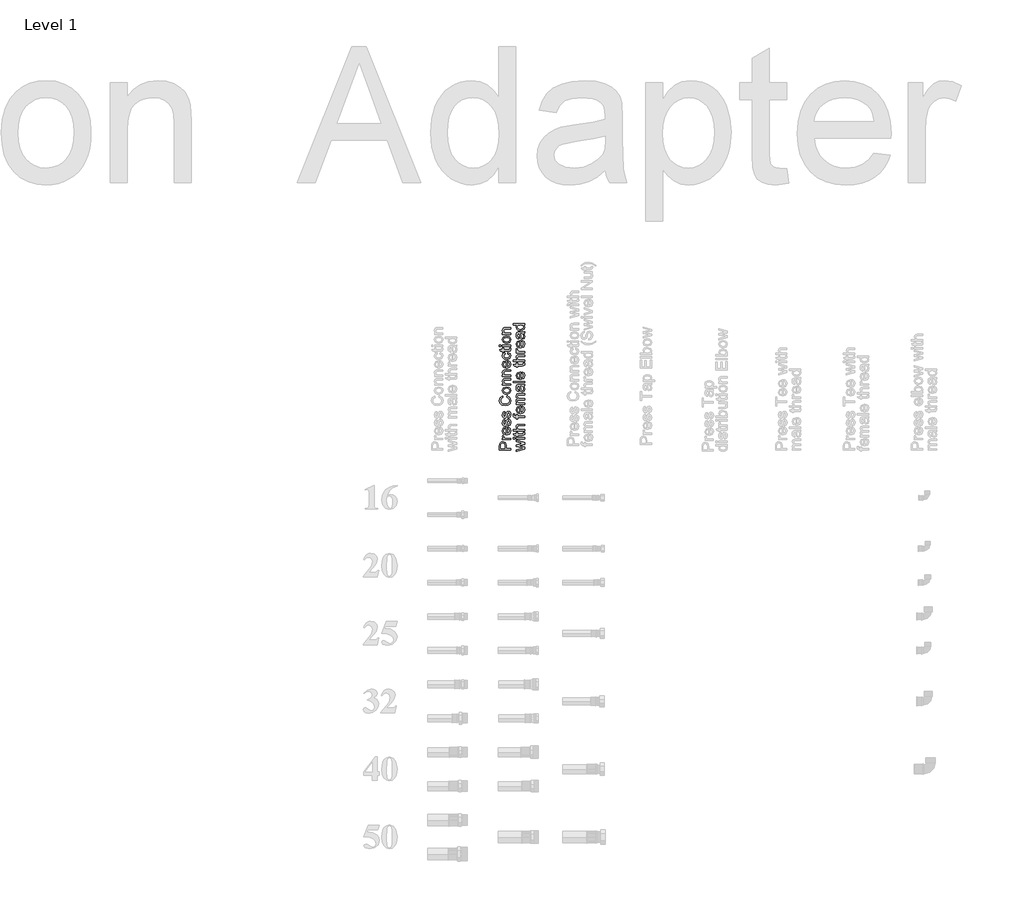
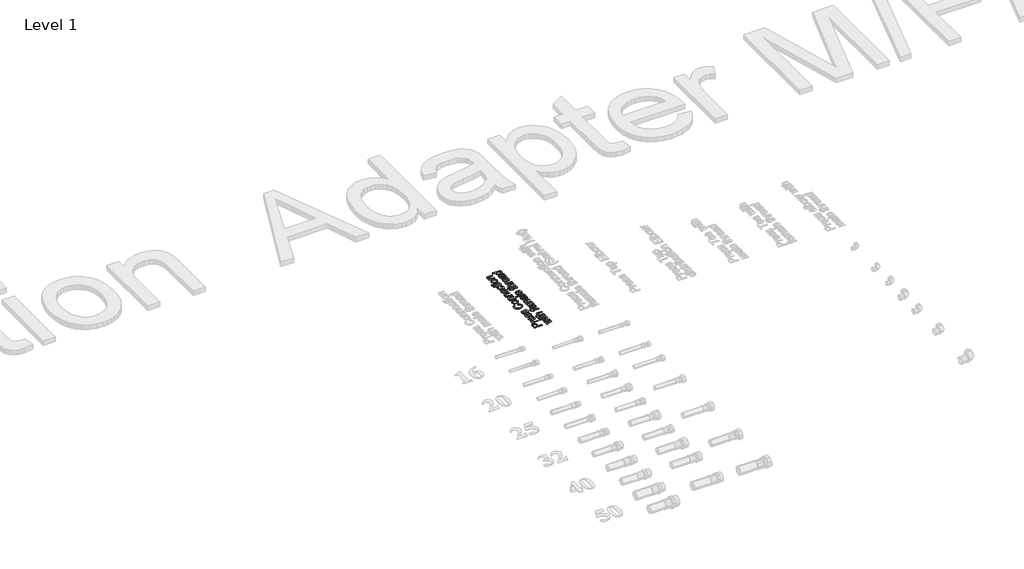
# One storey, part 41 of 57: 1 proxy.
"""IFC4 building model written with IfcOpenShell, lengths in millimetres."""

from ifc_helpers import new_model, si_unit, frame, origin, place, context, project, spatial, polyline, outline, extrude, element, save

model = new_model("IFC4")

# Units and contexts
model_context = context("Model", 3, world=origin())
ifc_project = project(units=[si_unit("LENGTHUNIT", "METRE", prefix="MILLI")], contexts=[model_context])

# Site, building, storey
site = spatial("IfcSite", under=ifc_project)
building = spatial("IfcBuilding", under=site)
storey = spatial("IfcBuildingStorey", under=building, Name="Level 1", Elevation=27.3876384)

# Proxy
placement = place(None, origin())
element("IfcBuildingElementProxy", 1, Name="50mm Arial", ObjectType="50mm Arial", at=placement, inside=storey, context=model_context, shape_type="SweptSolid", body=[
    extrude(outline(polyline([(29719.1417262, 30406.8112945), (29668.9135711, 30406.8112945), (29668.9135711, 30425.4261235), (29669.3918177, 30432.9309162), (29671.7401311, 30439.0316259), (29676.5961734, 30442.9863574), (29683.4449099, 30444.4824108), (29694.2974288, 30440.4418402), (29698.7365382, 30425.8553191), (29698.7365382, 30413.0898139), (29719.1417262, 30413.0898139), (29719.1417262, 30406.8112945)]), holes=[polyline([(29692.4580188, 30413.0898139), (29692.4580188, 30426.2232011), (29690.152625, 30435.4693019), (29683.6656391, 30438.2038914), (29678.4662402, 30436.591342), (29675.6212861, 30432.3545677), (29675.1920905, 30426.0760483), (29675.1920905, 30413.0898139), (29692.4580188, 30413.0898139)])]), frame((0.0, 0.0, 27.3876384), z_axis=(0.0, 0.0, 1.0), x_axis=(1.0, 0.0, 0.0)), (0.0, 0.0, 1.0), 2.0),
    extrude(outline(polyline([(29719.1417262, 30452.33056), (29682.2554248, 30452.33056), (29682.2554248, 30457.8242645), (29687.7123411, 30457.8242645), (29682.6846205, 30461.7238137), (29681.4706099, 30465.6478883), (29683.4081217, 30471.9509331), (29689.0367162, 30469.8540057), (29687.7491293, 30465.4394218), (29688.9876653, 30461.8893606), (29692.4212306, 30459.6268863), (29699.754345, 30458.6090794), (29719.1417262, 30458.6090794), (29719.1417262, 30452.33056)])), frame((0.0, 0.0, 27.3876384), z_axis=(0.0, 0.0, 1.0), x_axis=(1.0, 0.0, 0.0)), (0.0, 0.0, 1.0), 2.0),
    extrude(outline(polyline([(29708.1543173, 30501.7003238), (29708.9391322, 30507.8562159), (29717.0447988, 30502.0988626), (29719.9265411, 30491.3751025), (29714.9540028, 30478.3398171), (29701.0051438, 30473.520563), (29686.5964323, 30478.388868), (29681.4706099, 30491.0194832), (29686.5841696, 30503.2883477), (29700.9683556, 30508.0524196), (29702.6606128, 30508.0156314), (29702.6606128, 30479.7990824), (29710.8153304, 30483.4104573), (29713.6480217, 30491.4977298), (29712.3359093, 30497.6536219), (29708.1543173, 30501.7003238)]), holes=[polyline([(29696.3820934, 30479.7990824), (29696.3820934, 30501.7739002), (29690.6921852, 30499.2600399), (29687.7491293, 30490.9949577), (29690.0974427, 30483.2633045), (29696.3820934, 30479.7990824)])]), frame((0.0, 0.0, 27.3876384), z_axis=(0.0, 0.0, 1.0), x_axis=(1.0, 0.0, 0.0)), (0.0, 0.0, 1.0), 2.0),
    extrude(outline(polyline([(29708.1543173, 30511.9764942), (29707.3695023, 30518.2550136), (29712.0293409, 30521.1612813), (29713.6480217, 30527.8199455), (29712.164231, 30534.2210922), (29708.6816148, 30536.3057568), (29705.8611862, 30534.2088294), (29704.0708271, 30527.7463691), (29700.9990124, 30518.2918018), (29697.412163, 30514.1653921), (29692.3476542, 30512.7613091), (29687.6694215, 30513.8894806), (29684.0948348, 30516.9674266), (29682.2370307, 30520.9589462), (29681.4706099, 30526.3606802), (29682.7030146, 30534.000363), (29686.038478, 30538.8564053), (29691.6732039, 30541.0146464), (29692.4580188, 30534.736127), (29688.9937967, 30532.3755508), (29687.7491293, 30526.8511895), (29688.9386144, 30520.8424503), (29691.7099921, 30519.0398285), (29693.5371393, 30519.7878552), (29694.9228282, 30522.1300373), (29696.2594661, 30527.5379026), (29699.2147848, 30536.7533466), (29702.5625109, 30541.0330404), (29708.0194272, 30542.5842762), (29714.0281664, 30540.7632603), (29718.3875681, 30535.5086792), (29719.9265411, 30527.7341063), (29716.9589597, 30516.7834856), (29708.1543173, 30511.9764942)])), frame((0.0, 0.0, 27.3876384), z_axis=(0.0, 0.0, 1.0), x_axis=(1.0, 0.0, 0.0)), (0.0, 0.0, 1.0), 2.0),
    extrude(outline(polyline([(29708.1543173, 30547.2931657), (29707.3695023, 30553.5716851), (29712.0293409, 30556.4779529), (29713.6480217, 30563.136617), (29712.164231, 30569.5377637), (29708.6816148, 30571.6224283), (29705.8611862, 30569.525501), (29704.0708271, 30563.0630406), (29700.9990124, 30553.6084733), (29697.412163, 30549.4820636), (29692.3476542, 30548.0779807), (29687.6694215, 30549.2061521), (29684.0948348, 30552.2840981), (29682.2370307, 30556.2756178), (29681.4706099, 30561.6773517), (29682.7030146, 30569.3170345), (29686.038478, 30574.1730768), (29691.6732039, 30576.3313179), (29692.4580188, 30570.0527985), (29688.9937967, 30567.6922224), (29687.7491293, 30562.1678611), (29688.9386144, 30556.1591218), (29691.7099921, 30554.3565), (29693.5371393, 30555.1045268), (29694.9228282, 30557.4467088), (29696.2594661, 30562.8545741), (29699.2147848, 30572.0700181), (29702.5625109, 30576.349712), (29708.0194272, 30577.9009477), (29714.0281664, 30576.0799319), (29718.3875681, 30570.8253507), (29719.9265411, 30563.0507779), (29716.9589597, 30552.1001571), (29708.1543173, 30547.2931657)])), frame((0.0, 0.0, 27.3876384), z_axis=(0.0, 0.0, 1.0), x_axis=(1.0, 0.0, 0.0)), (0.0, 0.0, 1.0), 2.0),
    extrude(outline(polyline([(29701.2871867, 30640.6861416), (29702.9058675, 30646.964661), (29715.5671395, 30639.5211819), (29719.9265411, 30626.375532), (29716.6278659, 30613.3095898), (29707.0751967, 30605.6453815), (29693.6475039, 30603.0150253), (29679.9990819, 30605.9887381), (29671.1515199, 30614.4438926), (29668.1287562, 30626.510422), (29672.0405681, 30639.0858549), (29683.0525025, 30646.179846), (29684.5485559, 30639.9013267), (29676.8291654, 30634.7509787), (29674.4072756, 30626.2651674), (29677.0928141, 30616.4427181), (29684.3033012, 30610.8938313), (29693.6352412, 30609.2935447), (29704.4509718, 30611.1881369), (29711.361022, 30617.0865116), (29713.6480217, 30625.7501326), (29710.5332875, 30635.357984), (29701.2871867, 30640.6861416)])), frame((0.0, 0.0, 27.3876384), z_axis=(0.0, 0.0, 1.0), x_axis=(1.0, 0.0, 0.0)), (0.0, 0.0, 1.0), 2.0),
    extrude(outline(polyline([(29700.6985755, 30653.2431803), (29691.8050283, 30654.601278), (29685.5541, 30658.6755711), (29681.4706099, 30669.7365565), (29686.4431482, 30681.6007508), (29700.1835407, 30686.2054071), (29711.3548906, 30684.1697934), (29717.6763296, 30678.2407619), (29719.9265411, 30669.7365565), (29714.9723969, 30657.7987857), (29700.6985755, 30653.2431803)]), holes=[polyline([(29700.6863128, 30659.5216997), (29710.4167915, 30662.4279675), (29713.6480217, 30669.7365565), (29710.3983974, 30677.02062), (29700.490109, 30679.9268877), (29690.9803594, 30677.0022259), (29687.7491293, 30669.7365565), (29690.9680967, 30662.4279675), (29700.6863128, 30659.5216997)])]), frame((0.0, 0.0, 27.3876384), z_axis=(0.0, 0.0, 1.0), x_axis=(1.0, 0.0, 0.0)), (0.0, 0.0, 1.0), 2.0),
    extrude(outline(polyline([(29719.1417262, 30693.2687414), (29682.2554248, 30693.2687414), (29682.2554248, 30699.5472608), (29687.4057727, 30699.5472608), (29682.9544006, 30704.3481208), (29681.4706099, 30710.9025517), (29682.6662264, 30716.8315832), (29685.805486, 30720.8782852), (29690.4224051, 30722.7606147), (29696.492458, 30723.0917085), (29719.1417262, 30723.0917085), (29719.1417262, 30716.8131891), (29697.3385866, 30716.8131891), (29691.7835685, 30716.0896879), (29688.8466439, 30713.532908), (29687.7491293, 30709.2225573), (29690.2139386, 30702.410609), (29699.570404, 30699.5472608), (29719.1417262, 30699.5472608), (29719.1417262, 30693.2687414)])), frame((0.0, 0.0, 27.3876384), z_axis=(0.0, 0.0, 1.0), x_axis=(1.0, 0.0, 0.0)), (0.0, 0.0, 1.0), 2.0),
    extrude(outline(polyline([(29719.1417262, 30731.7246726), (29682.2554248, 30731.7246726), (29682.2554248, 30738.003192), (29687.4057727, 30738.003192), (29682.9544006, 30742.8040521), (29681.4706099, 30749.358483), (29682.6662264, 30755.2875144), (29685.805486, 30759.3342164), (29690.4224051, 30761.2165459), (29696.492458, 30761.5476397), (29719.1417262, 30761.5476397), (29719.1417262, 30755.2691203), (29697.3385866, 30755.2691203), (29691.7835685, 30754.5456191), (29688.8466439, 30751.9888392), (29687.7491293, 30747.6784885), (29690.2139386, 30740.8665402), (29699.570404, 30738.003192), (29719.1417262, 30738.003192), (29719.1417262, 30731.7246726)])), frame((0.0, 0.0, 27.3876384), z_axis=(0.0, 0.0, 1.0), x_axis=(1.0, 0.0, 0.0)), (0.0, 0.0, 1.0), 2.0),
    extrude(outline(polyline([(29708.1543173, 30796.0059199), (29708.9391322, 30802.161812), (29717.0447988, 30796.4044588), (29719.9265411, 30785.6806986), (29714.9540028, 30772.6454132), (29701.0051438, 30767.8261591), (29686.5964323, 30772.6944642), (29681.4706099, 30785.3250793), (29686.5841696, 30797.5939439), (29700.9683556, 30802.3580157), (29702.6606128, 30802.3212275), (29702.6606128, 30774.1046785), (29710.8153304, 30777.7160534), (29713.6480217, 30785.8033259), (29712.3359093, 30791.959218), (29708.1543173, 30796.0059199)]), holes=[polyline([(29696.3820934, 30774.1046785), (29696.3820934, 30796.0794963), (29690.6921852, 30793.565636), (29687.7491293, 30785.3005539), (29690.0974427, 30777.5689006), (29696.3820934, 30774.1046785)])]), frame((0.0, 0.0, 27.3876384), z_axis=(0.0, 0.0, 1.0), x_axis=(1.0, 0.0, 0.0)), (0.0, 0.0, 1.0), 2.0),
    extrude(outline(polyline([(29705.7998725, 30832.1809828), (29706.5846874, 30838.4595022), (29716.3887426, 30833.4195188), (29719.9265411, 30823.4621795), (29714.990791, 30811.561197), (29700.8334656, 30807.0669053), (29690.404011, 30808.986023), (29683.7024273, 30814.8353467), (29681.4706099, 30823.3763404), (29684.5362932, 30832.9228782), (29693.2428337, 30837.6746873), (29694.0276486, 30831.3961679), (29689.3248905, 30828.4837687), (29687.7491293, 30823.4253913), (29690.8516007, 30816.1474592), (29700.6617873, 30813.3454246), (29710.5639443, 30816.0861455), (29713.6480217, 30823.253713), (29711.7227726, 30829.1704818), (29705.7998725, 30832.1809828)])), frame((0.0, 0.0, 27.3876384), z_axis=(0.0, 0.0, 1.0), x_axis=(1.0, 0.0, 0.0)), (0.0, 0.0, 1.0), 2.0),
    extrude(outline(polyline([(29713.9055391, 30857.2950603), (29719.3256672, 30858.0798753), (29719.9265411, 30853.3832485), (29718.8842088, 30848.1225359), (29716.1496193, 30845.498311), (29709.0249713, 30844.7380216), (29688.5339442, 30844.7380216), (29688.5339442, 30840.029132), (29682.2554248, 30840.029132), (29682.2554248, 30844.7380216), (29673.2913668, 30844.7380216), (29669.6002842, 30851.016541), (29682.2554248, 30851.016541), (29682.2554248, 30857.2950603), (29688.5339442, 30857.2950603), (29688.5339442, 30851.016541), (29708.8410303, 30851.016541), (29712.0783919, 30851.3476347), (29713.6480217, 30854.5604708), (29713.9055391, 30857.2950603)])), frame((0.0, 0.0, 27.3876384), z_axis=(0.0, 0.0, 1.0), x_axis=(1.0, 0.0, 0.0)), (0.0, 0.0, 1.0), 2.0),
    extrude(outline(polyline([(29675.1920905, 30863.5735797), (29668.9135711, 30863.5735797), (29668.9135711, 30869.8520991), (29675.1920905, 30869.8520991), (29675.1920905, 30863.5735797)])), frame((0.0, 0.0, 27.3876384), z_axis=(0.0, 0.0, 1.0), x_axis=(1.0, 0.0, 0.0)), (0.0, 0.0, 1.0), 2.0),
    extrude(outline(polyline([(29719.1417262, 30863.5735797), (29682.2554248, 30863.5735797), (29682.2554248, 30869.8520991), (29719.1417262, 30869.8520991), (29719.1417262, 30863.5735797)])), frame((0.0, 0.0, 27.3876384), z_axis=(0.0, 0.0, 1.0), x_axis=(1.0, 0.0, 0.0)), (0.0, 0.0, 1.0), 2.0),
    extrude(outline(polyline([(29700.6985755, 30877.7002483), (29691.8050283, 30879.058346), (29685.5541, 30883.1326391), (29681.4706099, 30894.1936245), (29686.4431482, 30906.0578188), (29700.1835407, 30910.6624751), (29711.3548906, 30908.6268614), (29717.6763296, 30902.6978299), (29719.9265411, 30894.1936245), (29714.9723969, 30882.2558537), (29700.6985755, 30877.7002483)]), holes=[polyline([(29700.6863128, 30883.9787677), (29710.4167915, 30886.8850355), (29713.6480217, 30894.1936245), (29710.3983974, 30901.477688), (29700.490109, 30904.3839557), (29690.9803594, 30901.4592939), (29687.7491293, 30894.1936245), (29690.9680967, 30886.8850355), (29700.6863128, 30883.9787677)])]), frame((0.0, 0.0, 27.3876384), z_axis=(0.0, 0.0, 1.0), x_axis=(1.0, 0.0, 0.0)), (0.0, 0.0, 1.0), 2.0),
    extrude(outline(polyline([(29719.1417262, 30917.7258094), (29682.2554248, 30917.7258094), (29682.2554248, 30924.0043288), (29687.4057727, 30924.0043288), (29682.9544006, 30928.8051888), (29681.4706099, 30935.3596197), (29682.6662264, 30941.2886512), (29685.805486, 30945.3353531), (29690.4224051, 30947.2176827), (29696.492458, 30947.5487765), (29719.1417262, 30947.5487765), (29719.1417262, 30941.2702571), (29697.3385866, 30941.2702571), (29691.7835685, 30940.5467558), (29688.8466439, 30937.989976), (29687.7491293, 30933.6796253), (29690.2139386, 30926.867677), (29699.570404, 30924.0043288), (29719.1417262, 30924.0043288), (29719.1417262, 30917.7258094)])), frame((0.0, 0.0, 27.3876384), z_axis=(0.0, 0.0, 1.0), x_axis=(1.0, 0.0, 0.0)), (0.0, 0.0, 1.0), 2.0),
    extrude(outline(polyline([(29780.1291351, 30412.1455834), (29743.2428337, 30400.9251826), (29743.2428337, 30407.4489566), (29764.7639304, 30413.8133152), (29772.4526641, 30415.7140388), (29765.0459733, 30417.2714059), (29743.2428337, 30422.3359147), (29743.2428337, 30429.8161819), (29764.9846596, 30434.8561653), (29771.6923747, 30436.2418541), (29764.6167776, 30438.2284169), (29743.2428337, 30444.6050381), (29743.2428337, 30451.1533377), (29780.1291351, 30439.8470977), (29780.1291351, 30432.2564658), (29758.4976738, 30427.4372117), (29751.7531705, 30426.0392601), (29780.1291351, 30419.8220544), (29780.1291351, 30412.1455834)])), frame((0.0, 0.0, 27.3876384), z_axis=(0.0, 0.0, 1.0), x_axis=(1.0, 0.0, 0.0)), (0.0, 0.0, 1.0), 2.0),
    extrude(outline(polyline([(29736.1794994, 30455.4698197), (29729.90098, 30455.4698197), (29729.90098, 30461.7483391), (29736.1794994, 30461.7483391), (29736.1794994, 30455.4698197)])), frame((0.0, 0.0, 27.3876384), z_axis=(0.0, 0.0, 1.0), x_axis=(1.0, 0.0, 0.0)), (0.0, 0.0, 1.0), 2.0),
    extrude(outline(polyline([(29780.1291351, 30455.4698197), (29743.2428337, 30455.4698197), (29743.2428337, 30461.7483391), (29780.1291351, 30461.7483391), (29780.1291351, 30455.4698197)])), frame((0.0, 0.0, 27.3876384), z_axis=(0.0, 0.0, 1.0), x_axis=(1.0, 0.0, 0.0)), (0.0, 0.0, 1.0), 2.0),
    extrude(outline(polyline([(29774.892948, 30484.5079719), (29780.3130761, 30485.2927868), (29780.91395, 30480.59616), (29779.8716177, 30475.3354475), (29777.1370282, 30472.7112226), (29770.0123802, 30471.9509331), (29749.5213531, 30471.9509331), (29749.5213531, 30467.2420436), (29743.2428337, 30467.2420436), (29743.2428337, 30471.9509331), (29734.2787758, 30471.9509331), (29730.5876931, 30478.2294525), (29743.2428337, 30478.2294525), (29743.2428337, 30484.5079719), (29749.5213531, 30484.5079719), (29749.5213531, 30478.2294525), (29769.8284392, 30478.2294525), (29773.0658008, 30478.5605463), (29774.6354306, 30481.7733824), (29774.892948, 30484.5079719)])), frame((0.0, 0.0, 27.3876384), z_axis=(0.0, 0.0, 1.0), x_axis=(1.0, 0.0, 0.0)), (0.0, 0.0, 1.0), 2.0),
    extrude(outline(polyline([(29780.1291351, 30490.7864913), (29729.90098, 30490.7864913), (29729.90098, 30497.0650107), (29748.3686562, 30497.0650107), (29742.4580188, 30507.9911059), (29744.0705682, 30515.0421775), (29748.5280717, 30519.3218714), (29756.7808911, 30520.6094584), (29780.1291351, 30520.6094584), (29780.1291351, 30514.330939), (29757.430816, 30514.330939), (29750.8089401, 30512.3321135), (29748.7365382, 30506.6667307), (29750.1344898, 30501.5225142), (29753.9236743, 30498.0889489), (29760.5332875, 30497.0650107), (29780.1291351, 30497.0650107), (29780.1291351, 30490.7864913)])), frame((0.0, 0.0, 27.3876384), z_axis=(0.0, 0.0, 1.0), x_axis=(1.0, 0.0, 0.0)), (0.0, 0.0, 1.0), 2.0),
    extrude(outline(polyline([(29780.1291351, 30550.4324254), (29749.5213531, 30550.4324254), (29749.5213531, 30544.938721), (29743.2428337, 30544.938721), (29743.2428337, 30550.4324254), (29739.5272256, 30550.4324254), (29734.2910385, 30551.094613), (29730.5509049, 30554.3074491), (29729.1161651, 30560.6350194), (29729.8028782, 30566.3617158), (29735.6889901, 30565.4420108), (29735.3946845, 30561.8245045), (29736.4370168, 30557.8697731), (29740.3243032, 30556.7109448), (29743.2428337, 30556.7109448), (29743.2428337, 30563.7742791), (29749.5213531, 30563.7742791), (29749.5213531, 30556.7109448), (29780.1291351, 30556.7109448), (29780.1291351, 30550.4324254)])), frame((0.0, 0.0, 27.3876384), z_axis=(0.0, 0.0, 1.0), x_axis=(1.0, 0.0, 0.0)), (0.0, 0.0, 1.0), 2.0),
    extrude(outline(polyline([(29769.1417262, 30595.0932996), (29769.9265411, 30601.2491917), (29778.0322077, 30595.4918385), (29780.91395, 30584.7680783), (29775.9414117, 30571.7327929), (29761.9925527, 30566.9135388), (29747.5838413, 30571.7818439), (29742.4580188, 30584.412459), (29747.5715785, 30596.6813236), (29761.9557645, 30601.4453954), (29763.6480217, 30601.4086072), (29763.6480217, 30573.1920582), (29771.8027393, 30576.8034331), (29774.6354306, 30584.8907056), (29773.3233182, 30591.0465977), (29769.1417262, 30595.0932996)]), holes=[polyline([(29757.3695023, 30573.1920582), (29757.3695023, 30595.166876), (29751.6795941, 30592.6530157), (29748.7365382, 30584.3879336), (29751.0848516, 30576.6562803), (29757.3695023, 30573.1920582)])]), frame((0.0, 0.0, 27.3876384), z_axis=(0.0, 0.0, 1.0), x_axis=(1.0, 0.0, 0.0)), (0.0, 0.0, 1.0), 2.0),
    extrude(outline(polyline([(29780.1291351, 30607.7239148), (29743.2428337, 30607.7239148), (29743.2428337, 30614.0024342), (29749.3128866, 30614.0024342), (29744.3403483, 30618.3189163), (29742.4580188, 30624.4625456), (29744.3771365, 30630.7533277), (29749.754345, 30634.2114185), (29744.2821004, 30639.1103804), (29742.4580188, 30645.2969292), (29745.4930453, 30653.5068291), (29754.8433793, 30656.38244), (29780.1291351, 30656.38244), (29780.1291351, 30650.1039207), (29757.5411806, 30650.1039207), (29752.2988622, 30649.5214408), (29749.7175568, 30647.4122507), (29748.7365382, 30643.8254013), (29751.2503985, 30637.6511151), (29759.3070142, 30635.1924371), (29780.1291351, 30635.1924371), (29780.1291351, 30628.9139177), (29756.8422048, 30628.9139177), (29750.7598892, 30627.4607839), (29748.7365382, 30622.696712), (29750.0854388, 30618.0491361), (29754.0340389, 30614.9589274), (29761.5265689, 30614.0024342), (29780.1291351, 30614.0024342), (29780.1291351, 30607.7239148)])), frame((0.0, 0.0, 27.3876384), z_axis=(0.0, 0.0, 1.0), x_axis=(1.0, 0.0, 0.0)), (0.0, 0.0, 1.0), 2.0),
    extrude(outline(polyline([(29775.4202456, 30689.3446668), (29779.675414, 30683.2562198), (29780.91395, 30676.5301106), (29777.9341059, 30667.4127685), (29770.3189486, 30664.2305893), (29765.3525416, 30665.4323371), (29761.7472981, 30668.5899909), (29759.6871589, 30672.9861808), (29758.7429284, 30678.4185715), (29756.5846874, 30689.3078786), (29750.5514227, 30687.6156214), (29748.7365382, 30680.6749145), (29749.9444174, 30674.3228187), (29754.2302426, 30671.2939236), (29753.4454277, 30665.0154042), (29747.3140611, 30667.7315996), (29743.7210803, 30673.2007786), (29742.4580188, 30681.4842548), (29743.5739275, 30689.0932808), (29746.375962, 30693.3913688), (29750.6372618, 30695.3166179), (29756.1309663, 30695.6231862), (29763.9423273, 30695.6231862), (29774.8500285, 30695.9420173), (29780.1291351, 30697.192816), (29780.1291351, 30690.9142967), (29775.4202456, 30689.3446668)]), holes=[polyline([(29762.8632068, 30689.3446668), (29764.7884559, 30679.2156492), (29765.8062628, 30673.8139152), (29767.4617317, 30671.3675), (29769.8774902, 30670.5091087), (29773.2742673, 30672.3791755), (29774.6354306, 30677.8667486), (29773.1332458, 30684.2188443), (29769.4973454, 30688.3145972), (29764.6413031, 30689.3078786), (29762.8632068, 30689.3446668)])]), frame((0.0, 0.0, 27.3876384), z_axis=(0.0, 0.0, 1.0), x_axis=(1.0, 0.0, 0.0)), (0.0, 0.0, 1.0), 2.0),
    extrude(outline(polyline([(29780.1291351, 30704.2561503), (29729.90098, 30704.2561503), (29729.90098, 30710.5346697), (29780.1291351, 30710.5346697), (29780.1291351, 30704.2561503)])), frame((0.0, 0.0, 27.3876384), z_axis=(0.0, 0.0, 1.0), x_axis=(1.0, 0.0, 0.0)), (0.0, 0.0, 1.0), 2.0),
    extrude(outline(polyline([(29769.1417262, 30745.7777649), (29769.9265411, 30751.9336569), (29778.0322077, 30746.1763037), (29780.91395, 30735.4525435), (29775.9414117, 30722.4172582), (29761.9925527, 30717.598004), (29747.5838413, 30722.4663091), (29742.4580188, 30735.0969243), (29747.5715785, 30747.3657888), (29761.9557645, 30752.1298606), (29763.6480217, 30752.0930724), (29763.6480217, 30723.8765234), (29771.8027393, 30727.4878983), (29774.6354306, 30735.5751709), (29773.3233182, 30741.7310629), (29769.1417262, 30745.7777649)]), holes=[polyline([(29757.3695023, 30723.8765234), (29757.3695023, 30745.8513413), (29751.6795941, 30743.337481), (29748.7365382, 30735.0723988), (29751.0848516, 30727.3407455), (29757.3695023, 30723.8765234)])]), frame((0.0, 0.0, 27.3876384), z_axis=(0.0, 0.0, 1.0), x_axis=(1.0, 0.0, 0.0)), (0.0, 0.0, 1.0), 2.0),
    extrude(outline(polyline([(29774.892948, 30791.3706068), (29780.3130761, 30792.1554217), (29780.91395, 30787.4587949), (29779.8716177, 30782.1980824), (29777.1370282, 30779.5738575), (29770.0123802, 30778.813568), (29749.5213531, 30778.813568), (29749.5213531, 30774.1046785), (29743.2428337, 30774.1046785), (29743.2428337, 30778.813568), (29734.2787758, 30778.813568), (29730.5876931, 30785.0920874), (29743.2428337, 30785.0920874), (29743.2428337, 30791.3706068), (29749.5213531, 30791.3706068), (29749.5213531, 30785.0920874), (29769.8284392, 30785.0920874), (29773.0658008, 30785.4231812), (29774.6354306, 30788.6360173), (29774.892948, 30791.3706068)])), frame((0.0, 0.0, 27.3876384), z_axis=(0.0, 0.0, 1.0), x_axis=(1.0, 0.0, 0.0)), (0.0, 0.0, 1.0), 2.0),
    extrude(outline(polyline([(29780.1291351, 30797.6491262), (29729.90098, 30797.6491262), (29729.90098, 30803.9276456), (29748.3686562, 30803.9276456), (29742.4580188, 30814.8537408), (29744.0705682, 30821.9048124), (29748.5280717, 30826.1845063), (29756.7808911, 30827.4720933), (29780.1291351, 30827.4720933), (29780.1291351, 30821.1935739), (29757.430816, 30821.1935739), (29750.8089401, 30819.1947484), (29748.7365382, 30813.5293656), (29750.1344898, 30808.3851491), (29753.9236743, 30804.9515838), (29760.5332875, 30803.9276456), (29780.1291351, 30803.9276456), (29780.1291351, 30797.6491262)])), frame((0.0, 0.0, 27.3876384), z_axis=(0.0, 0.0, 1.0), x_axis=(1.0, 0.0, 0.0)), (0.0, 0.0, 1.0), 2.0),
    extrude(outline(polyline([(29780.1291351, 30836.1050574), (29743.2428337, 30836.1050574), (29743.2428337, 30841.5987619), (29748.69975, 30841.5987619), (29743.6720294, 30845.498311), (29742.4580188, 30849.4223856), (29744.3955306, 30855.7254305), (29750.0241252, 30853.6285031), (29748.7365382, 30849.2139192), (29749.9750742, 30845.6638579), (29753.4086395, 30843.4013837), (29760.741754, 30842.3835768), (29780.1291351, 30842.3835768), (29780.1291351, 30836.1050574)])), frame((0.0, 0.0, 27.3876384), z_axis=(0.0, 0.0, 1.0), x_axis=(1.0, 0.0, 0.0)), (0.0, 0.0, 1.0), 2.0),
    extrude(outline(polyline([(29769.1417262, 30885.4748212), (29769.9265411, 30891.6307132), (29778.0322077, 30885.87336), (29780.91395, 30875.1495998), (29775.9414117, 30862.1143145), (29761.9925527, 30857.2950603), (29747.5838413, 30862.1633654), (29742.4580188, 30874.7939806), (29747.5715785, 30887.0628451), (29761.9557645, 30891.826917), (29763.6480217, 30891.7901288), (29763.6480217, 30863.5735797), (29771.8027393, 30867.1849546), (29774.6354306, 30875.2722272), (29773.3233182, 30881.4281192), (29769.1417262, 30885.4748212)]), holes=[polyline([(29757.3695023, 30863.5735797), (29757.3695023, 30885.5483976), (29751.6795941, 30883.0345373), (29748.7365382, 30874.7694551), (29751.0848516, 30867.0378018), (29757.3695023, 30863.5735797)])]), frame((0.0, 0.0, 27.3876384), z_axis=(0.0, 0.0, 1.0), x_axis=(1.0, 0.0, 0.0)), (0.0, 0.0, 1.0), 2.0),
    extrude(outline(polyline([(29775.4202456, 30921.649884), (29779.675414, 30915.561437), (29780.91395, 30908.8353279), (29777.9341059, 30899.7179857), (29770.3189486, 30896.5358065), (29765.3525416, 30897.7375543), (29761.7472981, 30900.8952081), (29759.6871589, 30905.291398), (29758.7429284, 30910.7237888), (29756.5846874, 30921.6130958), (29750.5514227, 30919.9208386), (29748.7365382, 30912.9801317), (29749.9444174, 30906.6280359), (29754.2302426, 30903.5991408), (29753.4454277, 30897.3206214), (29747.3140611, 30900.0368168), (29743.7210803, 30905.5059958), (29742.4580188, 30913.7894721), (29743.5739275, 30921.398498), (29746.375962, 30925.696586), (29750.6372618, 30927.6218351), (29756.1309663, 30927.9284034), (29763.9423273, 30927.9284034), (29774.8500285, 30928.2472345), (29780.1291351, 30929.4980333), (29780.1291351, 30923.2195139), (29775.4202456, 30921.649884)]), holes=[polyline([(29762.8632068, 30921.649884), (29764.7884559, 30911.5208664), (29765.8062628, 30906.1191325), (29767.4617317, 30903.6727172), (29769.8774902, 30902.8143259), (29773.2742673, 30904.6843927), (29774.6354306, 30910.1719658), (29773.1332458, 30916.5240616), (29769.4973454, 30920.6198144), (29764.6413031, 30921.6130958), (29762.8632068, 30921.649884)])]), frame((0.0, 0.0, 27.3876384), z_axis=(0.0, 0.0, 1.0), x_axis=(1.0, 0.0, 0.0)), (0.0, 0.0, 1.0), 2.0),
    extrude(outline(polyline([(29780.1291351, 30959.3210003), (29774.206235, 30959.3210003), (29779.2370213, 30955.1669995), (29780.91395, 30949.4249747), (29778.4859289, 30941.6504018), (29771.7107688, 30936.1566974), (29761.7227726, 30934.2069228), (29751.7286451, 30936.0034132), (29744.8492518, 30941.3867531), (29742.4580188, 30949.4004492), (29744.1686701, 30955.1884593), (29748.6139108, 30959.3210003), (29729.90098, 30959.3210003), (29729.90098, 30965.5995197), (29780.1291351, 30965.5995197), (29780.1291351, 30959.3210003)]), holes=[polyline([(29761.6982471, 30940.4854422), (29771.4164632, 30943.3181335), (29774.6354306, 30950.0013231), (29771.563616, 30956.6048049), (29762.1764937, 30959.3210003), (29751.9861625, 30956.555754), (29748.7365382, 30949.7438057), (29751.8574038, 30943.1341925), (29761.6982471, 30940.4854422)])]), frame((0.0, 0.0, 27.3876384), z_axis=(0.0, 0.0, 1.0), x_axis=(1.0, 0.0, 0.0)), (0.0, 0.0, 1.0), 2.0),
])

save(model, "model.ifc")
